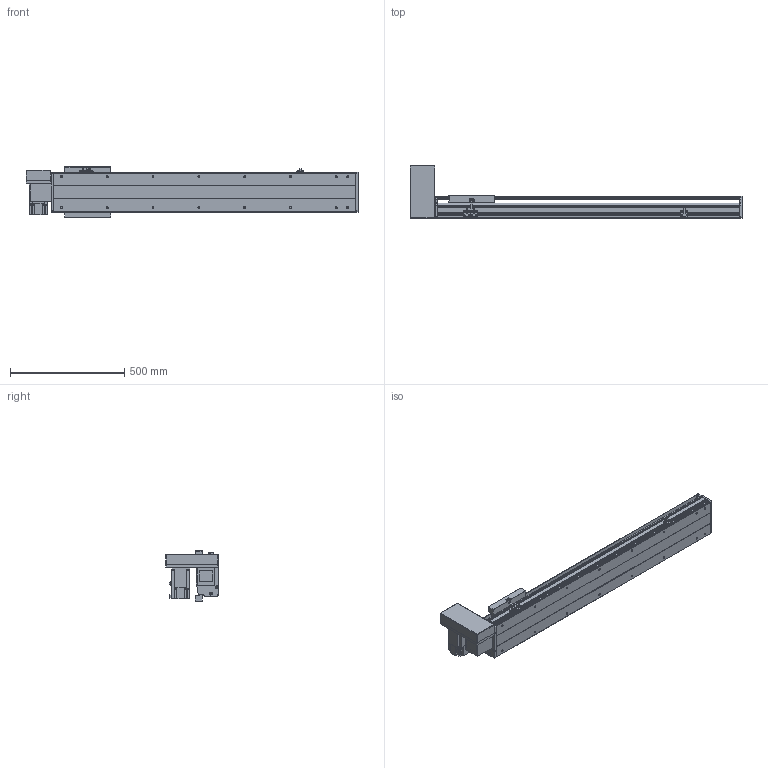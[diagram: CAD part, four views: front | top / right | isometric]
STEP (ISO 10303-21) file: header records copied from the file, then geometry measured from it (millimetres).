
FILE_DESCRIPTION(/* description */ ('STEP AP214'),/* implementation_level */ '2;1');
FILE_NAME(/* name */ 'PBS200-P40-S950-RU-T75-C1-N(0)',/* time_stamp */ '2022-06-11T09:35:16+02:00',/* author */ ('License CC BY-ND 4.0'),/* organization */ ('CADENAS'),/* preprocessor_version */ 'ST-DEVELOPER v18.102',/* originating_system */ 'PARTsolutions',/* authorisation */ ' ');
FILE_SCHEMA (('AUTOMOTIVE_DESIGN {1 0 10303 214 3 1 1}'));
Length unit declared in the file: millimetre
Products named in the file (7): PBS200-P40-S950-RU-T75-C1-N(0); PBS200_sensor; PBS200_plant; PBS200_sliser; T75-p1; PBS200T-RU_motors; PBS200-S950()_body
Assembly tree (8 placements, depth 2):
  PBS200-P40-S950-RU-T75-C1-N(0)
    PBS200_sensor  x3
    PBS200_plant
    PBS200_sliser
    T75-p1
    PBS200T-RU_motors
    PBS200-S950()_body
Bounding box: 1450 x 231 x 221 mm (x, y, z)
Volume: 10924655.7 mm3; surface area: 1770559.3 mm2
Topology: 8 solids, 8 shells, 920 faces, 2374 edges, 1548 vertices
Faces by surface type: plane 574, cylinder 298, cone 48
Full cylindrical faces by diameter (mm): 2.459 x6, 3.242 x4, 4.5 x6, 4.917 x4, 5 x6, 6 x7, 6.6 x8, 6.647 x20, 8 x6, 10 x4, 12 x8, 38 x2, 40 x1, 70 x1
Entity records: 24581 total; most frequent: DIRECTION 4327, CARTESIAN_POINT 4192, ORIENTED_EDGE 3982, EDGE_CURVE 1991, AXIS2_PLACEMENT_3D 1507, VERTEX_POINT 1372, LINE 1313, VECTOR 1313
